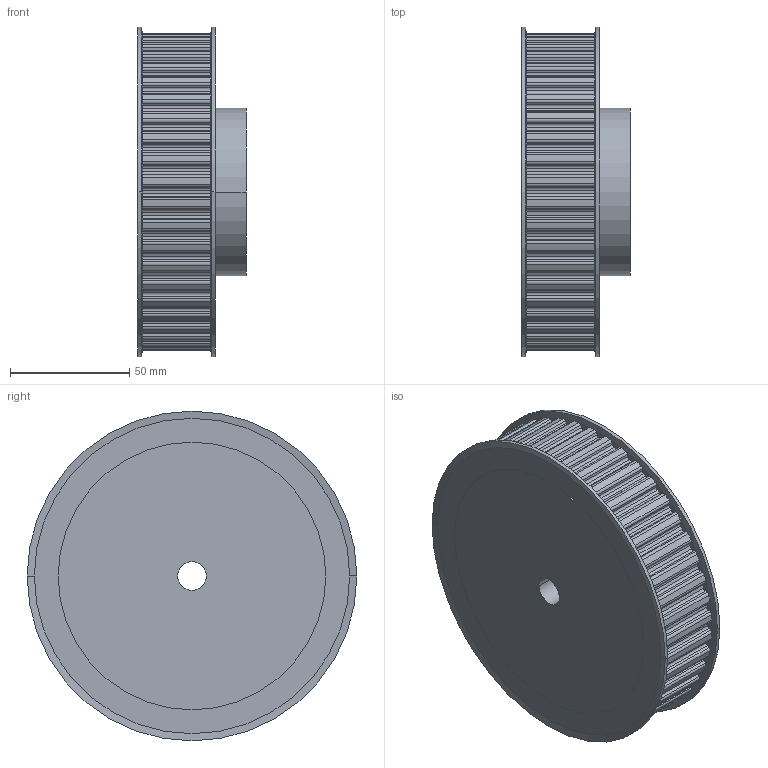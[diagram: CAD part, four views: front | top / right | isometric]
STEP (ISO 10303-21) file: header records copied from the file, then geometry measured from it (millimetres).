
FILE_DESCRIPTION( ( '' ), '1' );
FILE_NAME( 'C:/Users/Stangenbergd/Documents/CAD_Step/1/18234400.stp', '2021-10-19T10:40:32', ( '' ), ( '' ), ' ', ' ', ' ' );
FILE_SCHEMA( ( 'CONFIG_CONTROL_DESIGN' ) );
Length unit declared in the file: millimetre
Products named in the file (1): 1
Bounding box: 45.27 x 138 x 138 mm (x, y, z)
Volume: 473945.7 mm3; surface area: 54539.3 mm2
Topology: 1 solids, 1 shells, 553 faces, 1460 edges, 912 vertices
Faces by surface type: plane 313, cylinder 232, cone 8
Entity records: 17354 total; most frequent: DIRECTION 3392, CARTESIAN_POINT 2926, ORIENTED_EDGE 2920, EDGE_CURVE 1460, AXIS2_PLACEMENT_3D 1378, VERTEX_POINT 912, CIRCLE 824, LINE 636
